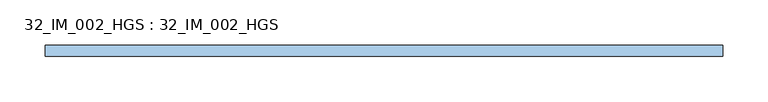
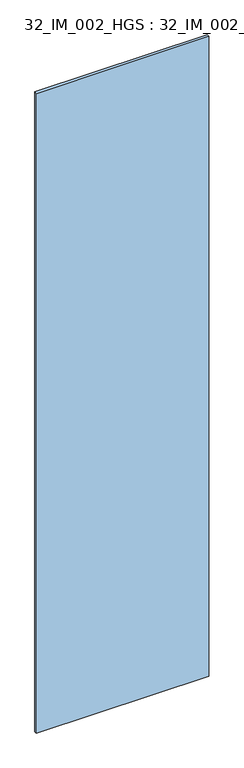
"""IFC4 building model written with IfcOpenShell, lengths in millimetres: window geometry, 32_IM_002_HGS : 32_IM_002_HGS."""

from ifc_helpers import new_model, si_unit, origin, origin_with_axes, place, context, project, spatial, polyline, outline, extrude, source, transform, mapped, element, save


def window_32_im_002_hgs_32_im_002_hgs_77d960d4(model_context):
    return source(origin(), model_context, "Body", "SweptSolid", [
        extrude(outline(polyline([(375.0, -6.0), (-375.0, -6.0), (-375.0, 6.0), (375.0, 6.0), (375.0, -6.0)])), origin_with_axes(), (0.0, 0.0, 1.0), 2945.0),
    ])


if __name__ == "__main__":
    model = new_model("IFC4")
    model_context = context("Model", 3, world=origin())
    ifc_project = project(units=[si_unit("LENGTHUNIT", "METRE", prefix="MILLI")], contexts=[model_context])
    site = spatial("IfcSite", under=ifc_project)
    building = spatial("IfcBuilding", under=site)
    placement = place(None, origin())
    window_32_im_002_hgs_32_im_002_hgs_shape = window_32_im_002_hgs_32_im_002_hgs_77d960d4(model_context)
    element("IfcWindow", 1, ObjectType="32_IM_002_HGS : 32_IM_002_HGS", at=placement, inside=building, context=model_context, shape_type="MappedRepresentation", body=[
        mapped(window_32_im_002_hgs_32_im_002_hgs_shape, transform((0.0, 0.0, 0.0), x_axis=(1.0, 0.0, 0.0), y_axis=(0.0, 1.0, 0.0), z_axis=(0.0, 0.0, 1.0))),
    ])
    save(model, "model.ifc")
